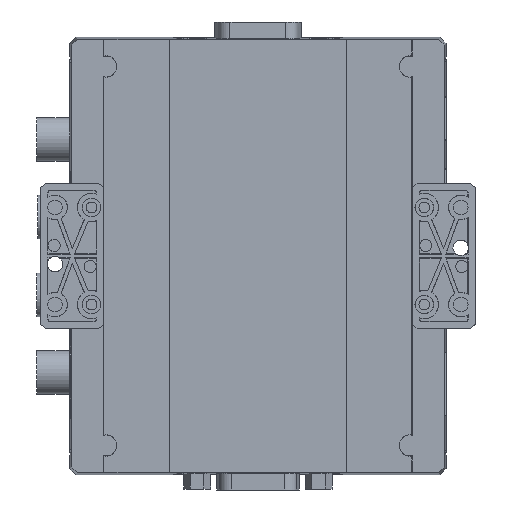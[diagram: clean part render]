
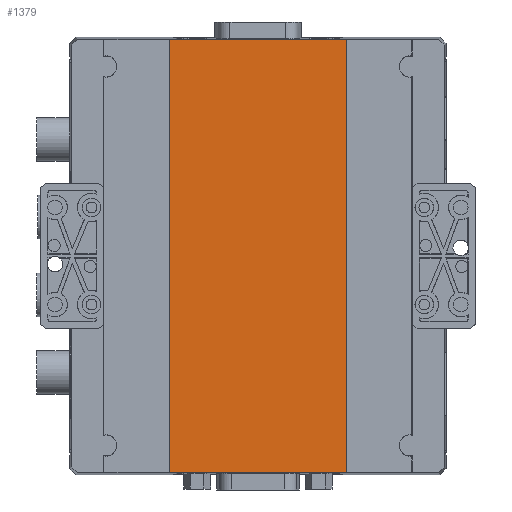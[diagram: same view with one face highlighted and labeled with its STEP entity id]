
A CAD part, front view. The second image highlights one B-rep face of the part: STEP entity #1379.
In plain terms, the highlighted planar face has unit normal (0, -1, 0).
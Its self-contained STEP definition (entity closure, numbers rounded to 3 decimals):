
#1379=ADVANCED_FACE('',(#3504),#2598,.F.);
#2598=PLANE('',#22253);
#3504=FACE_OUTER_BOUND('',#4637,.T.);
#4637=EDGE_LOOP('',(#6001,#6002,#6003,#6004));
#6001=ORIENTED_EDGE('',*,*,#14297,.F.);
#6002=ORIENTED_EDGE('',*,*,#14298,.T.);
#6003=ORIENTED_EDGE('',*,*,#14299,.T.);
#6004=ORIENTED_EDGE('',*,*,#14300,.F.);
#12225=VERTEX_POINT('',#29802);
#12226=VERTEX_POINT('',#29803);
#12227=VERTEX_POINT('',#29805);
#12228=VERTEX_POINT('',#29807);
#14297=EDGE_CURVE('',#12225,#12226,#17409,.T.);
#14298=EDGE_CURVE('',#12225,#12227,#17410,.T.);
#14299=EDGE_CURVE('',#12227,#12228,#17411,.T.);
#14300=EDGE_CURVE('',#12226,#12228,#17412,.T.);
#17409=LINE('',#29801,#19813);
#17410=LINE('',#29804,#19814);
#17411=LINE('',#29806,#19815);
#17412=LINE('',#29808,#19816);
#19813=VECTOR('',#23957,1.);
#19814=VECTOR('',#23958,1.);
#19815=VECTOR('',#23959,1.);
#19816=VECTOR('',#23960,1.);
#22253=AXIS2_PLACEMENT_3D('',#29809,#23961,#23962);
#23957=DIRECTION('',(-1.,0.,0.));
#23958=DIRECTION('',(0.,0.,1.));
#23959=DIRECTION('',(-1.,0.,0.));
#23960=DIRECTION('',(0.,0.,1.));
#23961=DIRECTION('',(0.,1.,0.));
#23962=DIRECTION('',(-1.,0.,0.));
#29801=CARTESIAN_POINT('',(215.259,2.5,-44.612));
#29802=CARTESIAN_POINT('',(215.259,2.5,-44.612));
#29803=CARTESIAN_POINT('',(178.75,2.5,-44.612));
#29804=CARTESIAN_POINT('',(215.259,2.5,-16.4));
#29805=CARTESIAN_POINT('',(215.259,2.5,44.612));
#29806=CARTESIAN_POINT('',(215.259,2.5,44.612));
#29807=CARTESIAN_POINT('',(178.75,2.5,44.612));
#29808=CARTESIAN_POINT('',(178.75,2.5,-10.982));
#29809=CARTESIAN_POINT('',(215.25,2.5,-54.));
